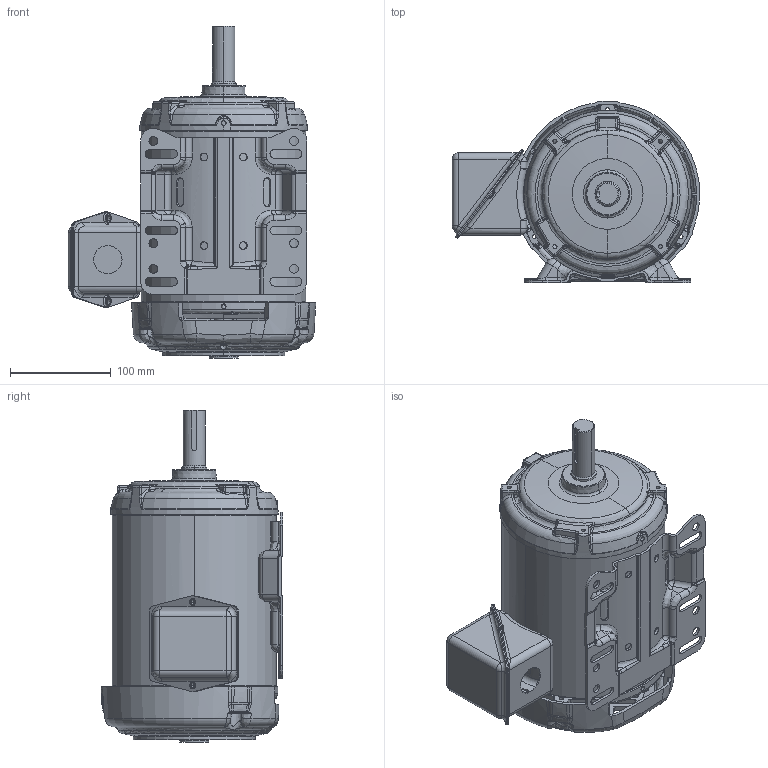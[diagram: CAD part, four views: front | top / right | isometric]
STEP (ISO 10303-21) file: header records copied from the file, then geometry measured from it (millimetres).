
FILE_DESCRIPTION((''),'2;1');
FILE_NAME('140_ASSY_ASM','2014-07-07T',('emd2341'),('Nidec Motor Corporation'),'PRO/ENGINEER BY PARAMETRIC TECHNOLOGY CORPORATION, 2013150','PRO/ENGINEER BY PARAMETRIC TECHNOLOGY CORPORATION, 2013150','');
FILE_SCHEMA(('CONFIG_CONTROL_DESIGN'));
Length unit declared in the file: inch
Products named in the file (10): 143UT_AF0; 0190767; 0774783; 0936254; 0484439; 0343740; 0399601; 0912536; B35796439; 140_ASSY_ASM
Assembly tree (9 placements, depth 2):
  140_ASSY_ASM
    143UT_AF0
    0190767
    0774783
    0936254
    0484439
    0343740
    0399601
    0912536
    B35796439
Bounding box: 246.03 x 180.78 x 329.91 mm (x, y, z)
Volume: 945443.6 mm3; surface area: 571175.3 mm2
Topology: 11 solids, 11 shells, 2372 faces, 5842 edges, 3480 vertices
Faces by surface type: bspline 1022, cylinder 474, plane 411, torus 260, cone 137, sphere 68
Entity records: 113564 total; most frequent: CARTESIAN_POINT 64474, ORIENTED_EDGE 11660, DIRECTION 8416, EDGE_CURVE 5830, AXIS2_PLACEMENT_3D 3576, VERTEX_POINT 3480, EDGE_LOOP 2524, FACE_OUTER_BOUND 2372
